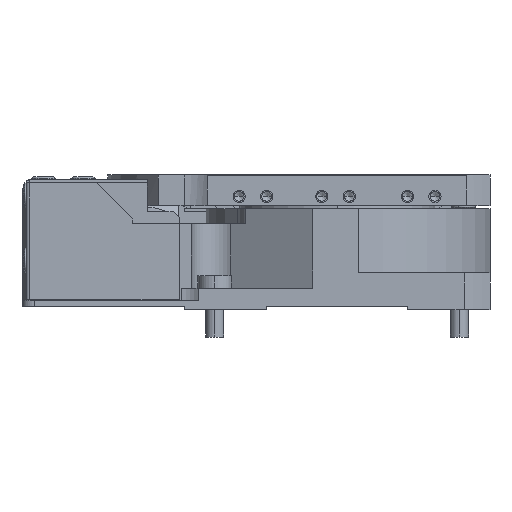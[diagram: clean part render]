
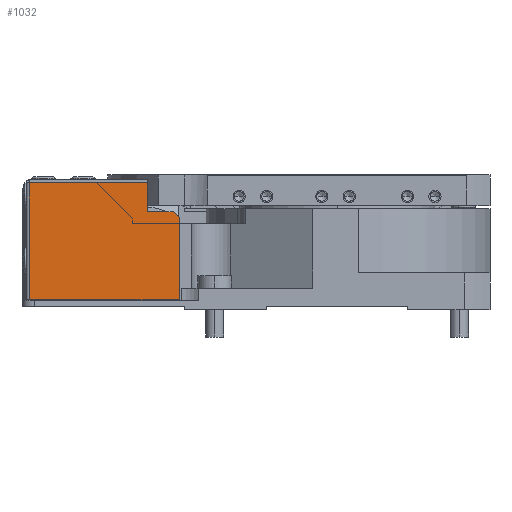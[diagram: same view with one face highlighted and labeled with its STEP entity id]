
A CAD part, left-side view. The second image highlights one B-rep face of the part: STEP entity #1032.
In plain terms, the highlighted planar face has unit normal (-1, 0, 0).
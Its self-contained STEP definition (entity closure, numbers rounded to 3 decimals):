
#1032=ADVANCED_FACE('',(#9856),#9855,.T.);
#9855=PLANE('',#20818);
#9856=FACE_OUTER_BOUND('',#20819,.T.);
#20815=CARTESIAN_POINT('',(-24.5,52.75,22.61));
#20816=DIRECTION('',(-1.,0.,0.));
#20817=DIRECTION('',(0.,0.,-1.));
#20818=AXIS2_PLACEMENT_3D('',#20815,#20816,#20817);
#20819=EDGE_LOOP('',(#29009,#29010,#29011,#29012,#29013,#29014,#29015));
#29009=ORIENTED_EDGE('',*,*,#34315,.F.);
#29010=ORIENTED_EDGE('',*,*,#34268,.T.);
#29011=ORIENTED_EDGE('',*,*,#34316,.F.);
#29012=ORIENTED_EDGE('',*,*,#34312,.F.);
#29013=ORIENTED_EDGE('',*,*,#34262,.F.);
#29014=ORIENTED_EDGE('',*,*,#34278,.T.);
#29015=ORIENTED_EDGE('',*,*,#34295,.F.);
#34262=EDGE_CURVE('',#49844,#49851,#49852,.T.);
#34268=EDGE_CURVE('',#49891,#49892,#49893,.T.);
#34278=EDGE_CURVE('',#49844,#49953,#49961,.T.);
#34295=EDGE_CURVE('',#50065,#49953,#50072,.T.);
#34312=EDGE_CURVE('',#49851,#50183,#50184,.T.);
#34315=EDGE_CURVE('',#49891,#50065,#50203,.T.);
#34316=EDGE_CURVE('',#50183,#49892,#50209,.T.);
#49844=VERTEX_POINT('',#67836);
#49851=VERTEX_POINT('',#67841);
#49852=LINE('',#67842,#67843);
#49891=VERTEX_POINT('',#67862);
#49892=VERTEX_POINT('',#67863);
#49893=LINE('',#67864,#67865);
#49953=VERTEX_POINT('',#67897);
#49961=LINE('',#67903,#67904);
#50065=VERTEX_POINT('',#67963);
#50072=LINE('',#67967,#67968);
#50183=VERTEX_POINT('',#68028);
#50184=LINE('',#68029,#68030);
#50203=LINE('',#68039,#68040);
#50209=LINE('',#68042,#68043);
#67836=CARTESIAN_POINT('',(-24.5,50.3,20.7));
#67841=CARTESIAN_POINT('',(-24.5,31.,20.7));
#67842=CARTESIAN_POINT('',(-24.5,50.3,20.7));
#67843=VECTOR('',#67844,19.3);
#67844=DIRECTION('',(0.,-1.,0.));
#67862=CARTESIAN_POINT('',(-24.5,25.8,15.));
#67863=CARTESIAN_POINT('',(-24.5,26.8,16.));
#67864=CARTESIAN_POINT('',(-24.5,25.8,15.));
#67865=VECTOR('',#67866,1.414);
#67866=DIRECTION('',(0.,0.707,0.707));
#67897=CARTESIAN_POINT('',(-24.5,50.3,1.6));
#67903=CARTESIAN_POINT('',(-24.5,50.3,20.7));
#67904=VECTOR('',#67905,19.1);
#67905=DIRECTION('',(0.,0.,-1.));
#67963=CARTESIAN_POINT('',(-24.5,25.8,1.6));
#67967=CARTESIAN_POINT('',(-24.5,25.8,1.6));
#67968=VECTOR('',#67969,24.5);
#67969=DIRECTION('',(0.,1.,0.));
#68028=CARTESIAN_POINT('',(-24.5,31.,16.));
#68029=CARTESIAN_POINT('',(-24.5,31.,20.7));
#68030=VECTOR('',#68031,4.7);
#68031=DIRECTION('',(0.,0.,-1.));
#68039=CARTESIAN_POINT('',(-24.5,25.8,15.));
#68040=VECTOR('',#68041,13.4);
#68041=DIRECTION('',(0.,0.,-1.));
#68042=CARTESIAN_POINT('',(-24.5,31.,16.));
#68043=VECTOR('',#68044,4.2);
#68044=DIRECTION('',(0.,-1.,0.));
